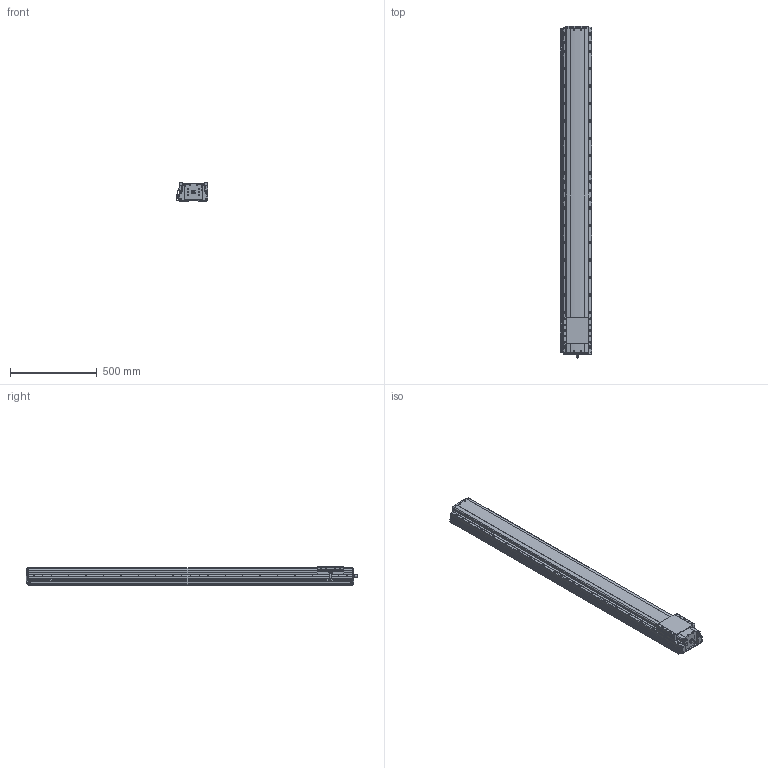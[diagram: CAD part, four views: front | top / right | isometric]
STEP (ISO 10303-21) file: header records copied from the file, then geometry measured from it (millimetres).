
FILE_DESCRIPTION(('STEP AP214'),'1');
FILE_NAME('Z:/Web/3D/PSA165/STP/PSA165-1600 (3D)/PSA165ㅁㅁ-1600+3SL.stp','2014-06-24T11:00:47',(' '),(' '),'Spatial InterOp 3D',' ',' ');
FILE_SCHEMA(('automotive_design'));
Length unit declared in the file: millimetre
Products named in the file (36): 스크루 : Round - M4.0 x 12.0; RRCV-PA160; BASE; 스크루 : Round - M4.0 x 10.0; RN15; Screw 20; SLIDE; FRCV; M3.0 x 6.0; SRL-16x17-360L; SGD-SAN150; EE-SX674; SBK-SX674-352; 스크루 : Round - M3.0 x 6.0; BHCS M4.0 x 10.0
Bounding box: 181 x 1908.8 x 104 mm (x, y, z)
Volume: 25814800.4 mm3; surface area: 1692888.8 mm2
Topology: 36 solids, 36 shells, 2656 faces, 7177 edges, 4597 vertices
Faces by surface type: plane 1447, cylinder 875, cone 241, sphere 52, bspline 25, torus 16
Entity records: 108462 total; most frequent: CARTESIAN_POINT 19200, DIRECTION 14197, ORIENTED_EDGE 14006, EDGE_CURVE 7003, AXIS2_PLACEMENT_3D 4808, VERTEX_POINT 4597, LINE 4581, VECTOR 4581
